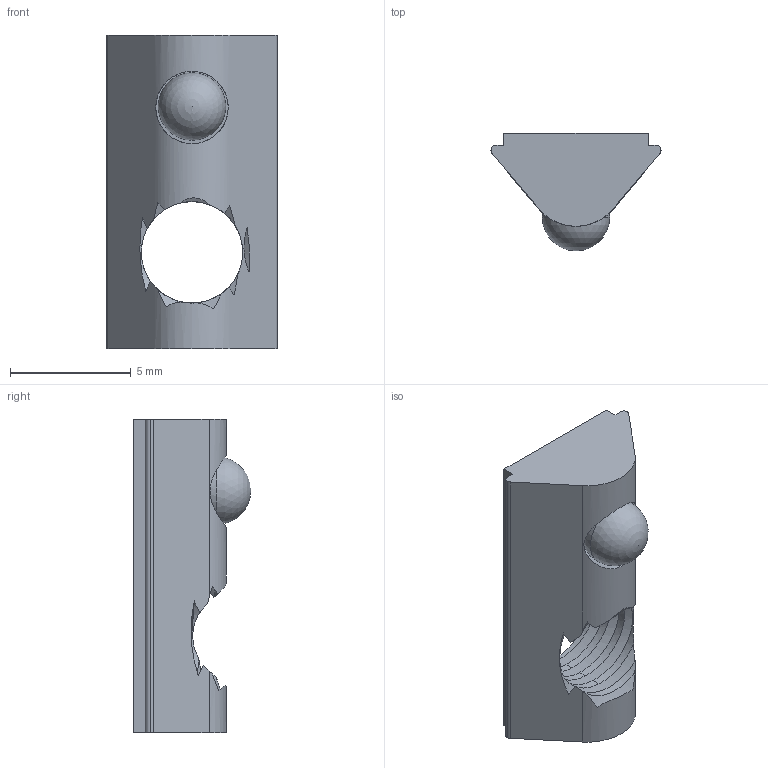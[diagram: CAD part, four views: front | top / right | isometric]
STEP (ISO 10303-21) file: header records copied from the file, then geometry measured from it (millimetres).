
FILE_DESCRIPTION (( 'STEP AP203' ), '1' );
FILE_NAME ('134-CE-EN-20-M5.STEP', '2015-07-09T08:59:27', ( '' ), ( '' ), 'SwSTEP 2.0', 'SolidWorks 2013', '' );
FILE_SCHEMA (( 'CONFIG_CONTROL_DESIGN' ));
Length unit declared in the file: millimetre
Products named in the file (1): 134-CE-EN-20-M5
Bounding box: 7.04 x 4.87 x 13 mm (x, y, z)
Volume: 177.4 mm3; surface area: 354.3 mm2
Topology: 2 solids, 2 shells, 40 faces, 118 edges, 79 vertices
Faces by surface type: cylinder 20, plane 10, bspline 8, sphere 2
Entity records: 4408 total; most frequent: CARTESIAN_POINT 3456, ORIENTED_EDGE 226, DIRECTION 132, EDGE_CURVE 113, VERTEX_POINT 76, AXIS2_PLACEMENT_3D 47, EDGE_LOOP 43, ADVANCED_FACE 40
